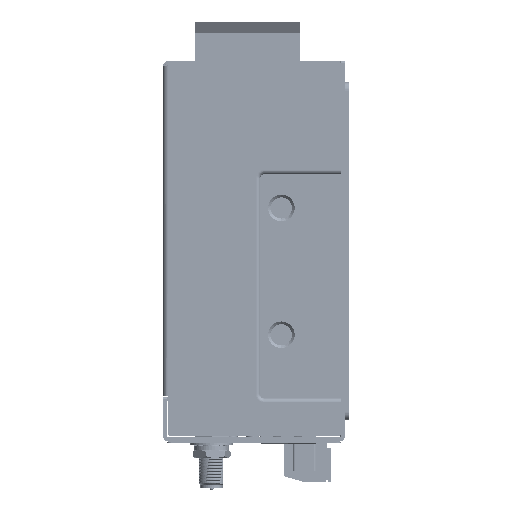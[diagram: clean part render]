
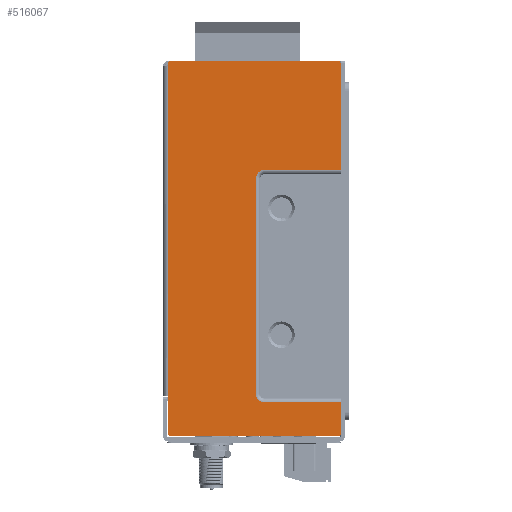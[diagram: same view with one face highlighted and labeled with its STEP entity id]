
A CAD part, left-side view. The second image highlights one B-rep face of the part: STEP entity #516067.
In plain terms, the highlighted planar face has unit normal (-1, 0, 0).
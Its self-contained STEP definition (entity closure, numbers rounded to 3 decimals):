
#4538 = EDGE_CURVE ( 'NONE', #67259, #310013, #173848, .T. ) ;
#5414 = LINE ( 'NONE', #296350, #52805 ) ;
#7877 = EDGE_CURVE ( 'NONE', #407625, #371356, #24000, .T. ) ;
#17621 = DIRECTION ( 'NONE',  ( 0., -1., 0. ) ) ;
#24000 = LINE ( 'NONE', #198473, #444088 ) ;
#28874 = DIRECTION ( 'NONE',  ( 0., 0., -1. ) ) ;
#31333 = VERTEX_POINT ( 'NONE', #152085 ) ;
#33911 = ORIENTED_EDGE ( 'NONE', *, *, #279250, .T. ) ;
#38580 = VERTEX_POINT ( 'NONE', #317879 ) ;
#43187 = EDGE_CURVE ( 'NONE', #502610, #95940, #298389, .T. ) ;
#52805 = VECTOR ( 'NONE', #467993, 1000. ) ;
#52930 = CARTESIAN_POINT ( 'NONE',  ( 0., 40.5, -78.6 ) ) ;
#54445 = LINE ( 'NONE', #106340, #284731 ) ;
#57862 = CARTESIAN_POINT ( 'NONE',  ( 0., 23., 1.65 ) ) ;
#62901 = DIRECTION ( 'NONE',  ( -1., 0., 0. ) ) ;
#62904 = DIRECTION ( 'NONE',  ( 0., 0., -1. ) ) ;
#64847 = VECTOR ( 'NONE', #28874, 1000. ) ;
#65526 = VECTOR ( 'NONE', #504031, 1000. ) ;
#66336 = DIRECTION ( 'NONE',  ( 0., 1., 0. ) ) ;
#67259 = VERTEX_POINT ( 'NONE', #376373 ) ;
#71844 = CARTESIAN_POINT ( 'NONE',  ( 0., 0.25, -77.923 ) ) ;
#72762 = CARTESIAN_POINT ( 'NONE',  ( 0., 23., 1.65 ) ) ;
#74543 = CARTESIAN_POINT ( 'NONE',  ( 0., 0.75, 9.15 ) ) ;
#85288 = CARTESIAN_POINT ( 'NONE',  ( 0., 0., -53.35 ) ) ;
#86954 = CARTESIAN_POINT ( 'NONE',  ( 0., 0.75, -78.6 ) ) ;
#95940 = VERTEX_POINT ( 'NONE', #445029 ) ;
#102379 = CIRCLE ( 'NONE', #350125, 0.5 ) ;
#104082 = LINE ( 'NONE', #189803, #390766 ) ;
#106096 = EDGE_CURVE ( 'NONE', #444959, #310013, #104082, .T. ) ;
#106340 = CARTESIAN_POINT ( 'NONE',  ( 0., 0.25, -79.1 ) ) ;
#106882 = DIRECTION ( 'NONE',  ( 1., 0., 0. ) ) ;
#109573 = DIRECTION ( 'NONE',  ( 0., -1., 0. ) ) ;
#112160 = CARTESIAN_POINT ( 'NONE',  ( 0., 0.25, 9.65 ) ) ;
#112480 = CARTESIAN_POINT ( 'NONE',  ( 0., 41., 1.65 ) ) ;
#114027 = CARTESIAN_POINT ( 'NONE',  ( 0., 41., 9.15 ) ) ;
#126636 = AXIS2_PLACEMENT_3D ( 'NONE', #185901, #354742, #523616 ) ;
#142863 = CARTESIAN_POINT ( 'NONE',  ( 0., 40.5, -79.1 ) ) ;
#151120 = DIRECTION ( 'NONE',  ( 0., 1., 0. ) ) ;
#152085 = CARTESIAN_POINT ( 'NONE',  ( 0., 21., -51.35 ) ) ;
#152720 = ORIENTED_EDGE ( 'NONE', *, *, #299671, .T. ) ;
#157033 = ORIENTED_EDGE ( 'NONE', *, *, #4538, .T. ) ;
#157457 = ORIENTED_EDGE ( 'NONE', *, *, #164871, .T. ) ;
#158224 = VERTEX_POINT ( 'NONE', #267945 ) ;
#164871 = EDGE_CURVE ( 'NONE', #95940, #268030, #5414, .T. ) ;
#165348 = AXIS2_PLACEMENT_3D ( 'NONE', #260252, #462538, #429199 ) ;
#166753 = DIRECTION ( 'NONE',  ( 0., 1., 0. ) ) ;
#170398 = CIRCLE ( 'NONE', #338412, 2. ) ;
#172843 = ORIENTED_EDGE ( 'NONE', *, *, #486117, .T. ) ;
#173848 = CIRCLE ( 'NONE', #253232, 0.5 ) ;
#183332 = VERTEX_POINT ( 'NONE', #71844 ) ;
#183788 = EDGE_CURVE ( 'NONE', #259855, #158224, #102379, .T. ) ;
#185247 = DIRECTION ( 'NONE',  ( 0., -1., 0. ) ) ;
#185901 = CARTESIAN_POINT ( 'NONE',  ( 0., 23., -51.35 ) ) ;
#188376 = VECTOR ( 'NONE', #347702, 1000. ) ;
#189803 = CARTESIAN_POINT ( 'NONE',  ( 0., 41., 9.65 ) ) ;
#191662 = LINE ( 'NONE', #319073, #524605 ) ;
#195137 = AXIS2_PLACEMENT_3D ( 'NONE', #52930, #302285, #166753 ) ;
#198473 = CARTESIAN_POINT ( 'NONE',  ( 0., 41., 0. ) ) ;
#200653 = CARTESIAN_POINT ( 'NONE',  ( 0., 0.75, 9.65 ) ) ;
#210540 = PLANE ( 'NONE',  #165348 ) ;
#221602 = EDGE_CURVE ( 'NONE', #235433, #183332, #334120, .T. ) ;
#224652 = ORIENTED_EDGE ( 'NONE', *, *, #275840, .F. ) ;
#235433 = VERTEX_POINT ( 'NONE', #277901 ) ;
#242274 = ORIENTED_EDGE ( 'NONE', *, *, #183788, .T. ) ;
#243332 = DIRECTION ( 'NONE',  ( -1., 0., 0. ) ) ;
#245615 = ORIENTED_EDGE ( 'NONE', *, *, #429374, .T. ) ;
#253115 = CARTESIAN_POINT ( 'NONE',  ( 0., 40.5, 9.65 ) ) ;
#253232 = AXIS2_PLACEMENT_3D ( 'NONE', #74543, #243332, #66336 ) ;
#253427 = AXIS2_PLACEMENT_3D ( 'NONE', #350979, #62901, #519848 ) ;
#255482 = VECTOR ( 'NONE', #185247, 1000. ) ;
#259855 = VERTEX_POINT ( 'NONE', #510990 ) ;
#260252 = CARTESIAN_POINT ( 'NONE',  ( 0., 0., 0. ) ) ;
#263337 = ORIENTED_EDGE ( 'NONE', *, *, #106096, .F. ) ;
#267945 = CARTESIAN_POINT ( 'NONE',  ( 0., 0.25, -78.6 ) ) ;
#268030 = VERTEX_POINT ( 'NONE', #277171 ) ;
#275840 = EDGE_CURVE ( 'NONE', #67259, #235433, #286391, .T. ) ;
#277171 = CARTESIAN_POINT ( 'NONE',  ( 0., 41., -78.6 ) ) ;
#277901 = CARTESIAN_POINT ( 'NONE',  ( 0., 0.25, 0.15 ) ) ;
#279250 = EDGE_CURVE ( 'NONE', #31333, #502610, #391764, .T. ) ;
#284731 = VECTOR ( 'NONE', #17621, 1000. ) ;
#286391 = LINE ( 'NONE', #112160, #64847 ) ;
#290882 = LINE ( 'NONE', #335153, #65526 ) ;
#292840 = EDGE_CURVE ( 'NONE', #320641, #38580, #170398, .T. ) ;
#296350 = CARTESIAN_POINT ( 'NONE',  ( 0., 41., 0. ) ) ;
#298389 = LINE ( 'NONE', #85288, #521006 ) ;
#299671 = EDGE_CURVE ( 'NONE', #38580, #31333, #191662, .T. ) ;
#302285 = DIRECTION ( 'NONE',  ( -1., 0., 0. ) ) ;
#303531 = CARTESIAN_POINT ( 'NONE',  ( 0., 0.25, -79.1 ) ) ;
#310013 = VERTEX_POINT ( 'NONE', #200653 ) ;
#317879 = CARTESIAN_POINT ( 'NONE',  ( 0., 21., -0.35 ) ) ;
#319073 = CARTESIAN_POINT ( 'NONE',  ( 0., 21., 0. ) ) ;
#319798 = CARTESIAN_POINT ( 'NONE',  ( 0., 23., -53.35 ) ) ;
#320641 = VERTEX_POINT ( 'NONE', #72762 ) ;
#322741 = CARTESIAN_POINT ( 'NONE',  ( 0., 23., -0.35 ) ) ;
#334120 = LINE ( 'NONE', #303531, #188376 ) ;
#335153 = CARTESIAN_POINT ( 'NONE',  ( 0., 0.25, -119.862 ) ) ;
#338412 = AXIS2_PLACEMENT_3D ( 'NONE', #322741, #106882, #151120 ) ;
#347702 = DIRECTION ( 'NONE',  ( 0., 0., -1. ) ) ;
#350125 = AXIS2_PLACEMENT_3D ( 'NONE', #86954, #427395, #463483 ) ;
#350979 = CARTESIAN_POINT ( 'NONE',  ( 0., 40.5, 9.15 ) ) ;
#354742 = DIRECTION ( 'NONE',  ( 1., 0., 0. ) ) ;
#366280 = EDGE_LOOP ( 'NONE', ( #538962, #242274, #172843, #409635, #224652, #157033, #263337, #245615, #544873, #427852, #411789, #152720, #33911, #502691, #157457, #537978 ) ) ;
#368547 = VERTEX_POINT ( 'NONE', #142863 ) ;
#371356 = VERTEX_POINT ( 'NONE', #112480 ) ;
#376373 = CARTESIAN_POINT ( 'NONE',  ( 0., 0.25, 9.15 ) ) ;
#381439 = DIRECTION ( 'NONE',  ( 0., 1., 0. ) ) ;
#390766 = VECTOR ( 'NONE', #109573, 1000. ) ;
#391764 = CIRCLE ( 'NONE', #126636, 2. ) ;
#399130 = EDGE_CURVE ( 'NONE', #368547, #259855, #54445, .T. ) ;
#407625 = VERTEX_POINT ( 'NONE', #114027 ) ;
#409635 = ORIENTED_EDGE ( 'NONE', *, *, #221602, .F. ) ;
#411789 = ORIENTED_EDGE ( 'NONE', *, *, #292840, .T. ) ;
#414610 = EDGE_CURVE ( 'NONE', #268030, #368547, #451713, .T. ) ;
#427395 = DIRECTION ( 'NONE',  ( -1., 0., 0. ) ) ;
#427852 = ORIENTED_EDGE ( 'NONE', *, *, #466715, .T. ) ;
#429199 = DIRECTION ( 'NONE',  ( 0., 1., 0. ) ) ;
#429374 = EDGE_CURVE ( 'NONE', #444959, #407625, #448025, .T. ) ;
#444088 = VECTOR ( 'NONE', #62904, 1000. ) ;
#444959 = VERTEX_POINT ( 'NONE', #253115 ) ;
#445029 = CARTESIAN_POINT ( 'NONE',  ( 0., 41., -53.35 ) ) ;
#445415 = LINE ( 'NONE', #57862, #255482 ) ;
#448025 = CIRCLE ( 'NONE', #253427, 0.5 ) ;
#451713 = CIRCLE ( 'NONE', #195137, 0.5 ) ;
#462538 = DIRECTION ( 'NONE',  ( 1., 0., 0. ) ) ;
#463483 = DIRECTION ( 'NONE',  ( 0., 1., 0. ) ) ;
#466715 = EDGE_CURVE ( 'NONE', #371356, #320641, #445415, .T. ) ;
#467993 = DIRECTION ( 'NONE',  ( 0., 0., -1. ) ) ;
#468060 = FACE_OUTER_BOUND ( 'NONE', #366280, .T. ) ;
#486117 = EDGE_CURVE ( 'NONE', #158224, #183332, #290882, .T. ) ;
#487915 = DIRECTION ( 'NONE',  ( 0., 0., -1. ) ) ;
#502610 = VERTEX_POINT ( 'NONE', #319798 ) ;
#502691 = ORIENTED_EDGE ( 'NONE', *, *, #43187, .T. ) ;
#504031 = DIRECTION ( 'NONE',  ( 0., 0., 1. ) ) ;
#510990 = CARTESIAN_POINT ( 'NONE',  ( 0., 0.75, -79.1 ) ) ;
#516067 = ADVANCED_FACE ( 'NONE', ( #468060 ), #210540, .F. ) ;
#519848 = DIRECTION ( 'NONE',  ( 0., 1., 0. ) ) ;
#521006 = VECTOR ( 'NONE', #381439, 1000. ) ;
#523616 = DIRECTION ( 'NONE',  ( 0., 1., 0. ) ) ;
#524605 = VECTOR ( 'NONE', #487915, 1000. ) ;
#537978 = ORIENTED_EDGE ( 'NONE', *, *, #414610, .T. ) ;
#538962 = ORIENTED_EDGE ( 'NONE', *, *, #399130, .T. ) ;
#544873 = ORIENTED_EDGE ( 'NONE', *, *, #7877, .T. ) ;
